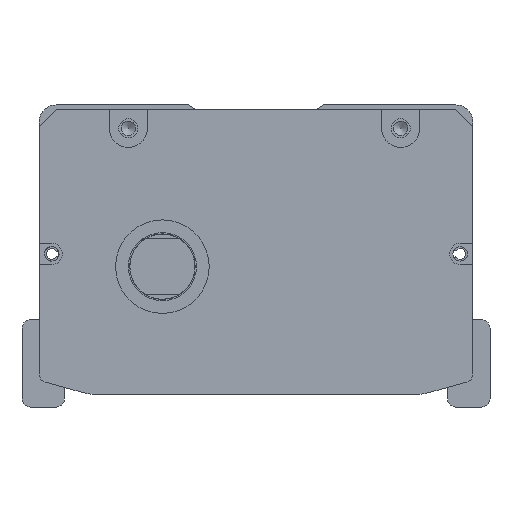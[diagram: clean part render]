
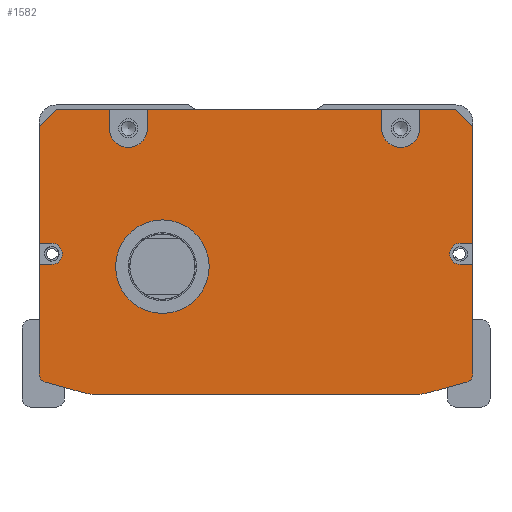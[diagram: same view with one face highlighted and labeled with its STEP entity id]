
A CAD part, front view. The second image highlights one B-rep face of the part: STEP entity #1582.
In plain terms, the highlighted planar face has unit normal (0, -1, 0).
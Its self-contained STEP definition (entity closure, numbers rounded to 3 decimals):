
#958=FACE_BOUND('',#3010,.T.);
#959=FACE_BOUND('',#3011,.T.);
#1582=ADVANCED_FACE('',(#958,#959),#2173,.F.);
#2173=PLANE('',#11715);
#3010=EDGE_LOOP('',(#5327,#5328,#5329,#5330,#5331,#5332,#5333,#5334,#5335,
#5336,#5337,#5338,#5339,#5340,#5341,#5342,#5343,#5344,#5345,#5346,#5347,
#5348,#5349,#5350,#5351,#5352,#5353,#5354));
#3011=EDGE_LOOP('',(#5355));
#3941=CIRCLE('',#11706,4.5);
#3942=CIRCLE('',#11707,4.5);
#3943=CIRCLE('',#11708,2.5);
#3944=CIRCLE('',#11709,2.);
#3945=CIRCLE('',#11710,10.);
#3946=CIRCLE('',#11711,10.);
#3947=CIRCLE('',#11712,2.);
#3948=CIRCLE('',#11713,2.5);
#3949=CIRCLE('',#11714,11.);
#5327=ORIENTED_EDGE('',*,*,#8620,.T.);
#5328=ORIENTED_EDGE('',*,*,#9034,.T.);
#5329=ORIENTED_EDGE('',*,*,#9035,.T.);
#5330=ORIENTED_EDGE('',*,*,#9036,.F.);
#5331=ORIENTED_EDGE('',*,*,#9037,.T.);
#5332=ORIENTED_EDGE('',*,*,#9038,.F.);
#5333=ORIENTED_EDGE('',*,*,#9039,.T.);
#5334=ORIENTED_EDGE('',*,*,#9040,.F.);
#5335=ORIENTED_EDGE('',*,*,#9041,.T.);
#5336=ORIENTED_EDGE('',*,*,#9042,.F.);
#5337=ORIENTED_EDGE('',*,*,#9043,.T.);
#5338=ORIENTED_EDGE('',*,*,#9044,.T.);
#5339=ORIENTED_EDGE('',*,*,#8652,.T.);
#5340=ORIENTED_EDGE('',*,*,#9045,.T.);
#5341=ORIENTED_EDGE('',*,*,#9046,.T.);
#5342=ORIENTED_EDGE('',*,*,#9047,.T.);
#5343=ORIENTED_EDGE('',*,*,#8648,.T.);
#5344=ORIENTED_EDGE('',*,*,#9048,.T.);
#5345=ORIENTED_EDGE('',*,*,#9049,.T.);
#5346=ORIENTED_EDGE('',*,*,#9050,.T.);
#5347=ORIENTED_EDGE('',*,*,#9051,.T.);
#5348=ORIENTED_EDGE('',*,*,#9052,.T.);
#5349=ORIENTED_EDGE('',*,*,#9053,.T.);
#5350=ORIENTED_EDGE('',*,*,#9054,.T.);
#5351=ORIENTED_EDGE('',*,*,#8624,.T.);
#5352=ORIENTED_EDGE('',*,*,#9055,.T.);
#5353=ORIENTED_EDGE('',*,*,#9056,.T.);
#5354=ORIENTED_EDGE('',*,*,#9057,.T.);
#5355=ORIENTED_EDGE('',*,*,#9058,.T.);
#7510=VERTEX_POINT('',#16116);
#7511=VERTEX_POINT('',#16118);
#7514=VERTEX_POINT('',#16124);
#7515=VERTEX_POINT('',#16126);
#7536=VERTEX_POINT('',#16171);
#7537=VERTEX_POINT('',#16173);
#7540=VERTEX_POINT('',#16179);
#7541=VERTEX_POINT('',#16181);
#7802=VERTEX_POINT('',#16970);
#7803=VERTEX_POINT('',#16972);
#7804=VERTEX_POINT('',#16974);
#7805=VERTEX_POINT('',#16976);
#7806=VERTEX_POINT('',#16978);
#7807=VERTEX_POINT('',#16980);
#7808=VERTEX_POINT('',#16982);
#7809=VERTEX_POINT('',#16984);
#7810=VERTEX_POINT('',#16986);
#7811=VERTEX_POINT('',#16988);
#7812=VERTEX_POINT('',#16991);
#7813=VERTEX_POINT('',#16993);
#7814=VERTEX_POINT('',#16996);
#7815=VERTEX_POINT('',#16998);
#7816=VERTEX_POINT('',#17000);
#7817=VERTEX_POINT('',#17002);
#7818=VERTEX_POINT('',#17004);
#7819=VERTEX_POINT('',#17006);
#7820=VERTEX_POINT('',#17009);
#7821=VERTEX_POINT('',#17011);
#7822=VERTEX_POINT('',#17014);
#8620=EDGE_CURVE('',#7511,#7510,#10055,.T.);
#8624=EDGE_CURVE('',#7515,#7514,#10059,.T.);
#8648=EDGE_CURVE('',#7537,#7536,#10083,.T.);
#8652=EDGE_CURVE('',#7541,#7540,#10087,.T.);
#9034=EDGE_CURVE('',#7510,#7802,#10320,.T.);
#9035=EDGE_CURVE('',#7802,#7803,#10321,.T.);
#9036=EDGE_CURVE('',#7804,#7803,#10322,.T.);
#9037=EDGE_CURVE('',#7804,#7805,#3941,.T.);
#9038=EDGE_CURVE('',#7806,#7805,#10323,.T.);
#9039=EDGE_CURVE('',#7806,#7807,#10324,.T.);
#9040=EDGE_CURVE('',#7808,#7807,#10325,.T.);
#9041=EDGE_CURVE('',#7808,#7809,#3942,.T.);
#9042=EDGE_CURVE('',#7810,#7809,#10326,.T.);
#9043=EDGE_CURVE('',#7810,#7811,#10327,.T.);
#9044=EDGE_CURVE('',#7811,#7541,#10328,.T.);
#9045=EDGE_CURVE('',#7540,#7812,#10329,.T.);
#9046=EDGE_CURVE('',#7812,#7813,#3943,.T.);
#9047=EDGE_CURVE('',#7813,#7537,#10330,.T.);
#9048=EDGE_CURVE('',#7536,#7814,#3944,.T.);
#9049=EDGE_CURVE('',#7814,#7815,#10331,.T.);
#9050=EDGE_CURVE('',#7815,#7816,#3945,.T.);
#9051=EDGE_CURVE('',#7816,#7817,#10332,.T.);
#9052=EDGE_CURVE('',#7817,#7818,#3946,.T.);
#9053=EDGE_CURVE('',#7818,#7819,#10333,.T.);
#9054=EDGE_CURVE('',#7819,#7515,#3947,.T.);
#9055=EDGE_CURVE('',#7514,#7820,#10334,.T.);
#9056=EDGE_CURVE('',#7820,#7821,#3948,.T.);
#9057=EDGE_CURVE('',#7821,#7511,#10335,.T.);
#9058=EDGE_CURVE('',#7822,#7822,#3949,.T.);
#10055=LINE('',#16117,#10708);
#10059=LINE('',#16125,#10712);
#10083=LINE('',#16172,#10736);
#10087=LINE('',#16180,#10740);
#10320=LINE('',#16969,#10973);
#10321=LINE('',#16971,#10974);
#10322=LINE('',#16973,#10975);
#10323=LINE('',#16977,#10976);
#10324=LINE('',#16979,#10977);
#10325=LINE('',#16981,#10978);
#10326=LINE('',#16985,#10979);
#10327=LINE('',#16987,#10980);
#10328=LINE('',#16989,#10981);
#10329=LINE('',#16990,#10982);
#10330=LINE('',#16994,#10983);
#10331=LINE('',#16997,#10984);
#10332=LINE('',#17001,#10985);
#10333=LINE('',#17005,#10986);
#10334=LINE('',#17008,#10987);
#10335=LINE('',#17012,#10988);
#10708=VECTOR('',#12870,1.);
#10712=VECTOR('',#12874,1.);
#10736=VECTOR('',#12900,1.);
#10740=VECTOR('',#12904,1.);
#10973=VECTOR('',#13727,1.);
#10974=VECTOR('',#13728,1.);
#10975=VECTOR('',#13729,1.);
#10976=VECTOR('',#13732,1.);
#10977=VECTOR('',#13733,1.);
#10978=VECTOR('',#13734,1.);
#10979=VECTOR('',#13737,1.);
#10980=VECTOR('',#13738,1.);
#10981=VECTOR('',#13739,1.);
#10982=VECTOR('',#13740,1.);
#10983=VECTOR('',#13743,1.);
#10984=VECTOR('',#13746,1.);
#10985=VECTOR('',#13749,1.);
#10986=VECTOR('',#13752,1.);
#10987=VECTOR('',#13755,1.);
#10988=VECTOR('',#13758,1.);
#11706=AXIS2_PLACEMENT_3D('',#16975,#13730,#13731);
#11707=AXIS2_PLACEMENT_3D('',#16983,#13735,#13736);
#11708=AXIS2_PLACEMENT_3D('',#16992,#13741,#13742);
#11709=AXIS2_PLACEMENT_3D('',#16995,#13744,#13745);
#11710=AXIS2_PLACEMENT_3D('',#16999,#13747,#13748);
#11711=AXIS2_PLACEMENT_3D('',#17003,#13750,#13751);
#11712=AXIS2_PLACEMENT_3D('',#17007,#13753,#13754);
#11713=AXIS2_PLACEMENT_3D('',#17010,#13756,#13757);
#11714=AXIS2_PLACEMENT_3D('',#17013,#13759,#13760);
#11715=AXIS2_PLACEMENT_3D('',#17015,#13761,#13762);
#12870=DIRECTION('',(0.,0.,1.));
#12874=DIRECTION('',(0.,0.,1.));
#12900=DIRECTION('',(0.,0.,-1.));
#12904=DIRECTION('',(0.,0.,-1.));
#13727=DIRECTION('',(-0.707,0.,0.707));
#13728=DIRECTION('',(-1.,0.,0.));
#13729=DIRECTION('',(0.,0.,1.));
#13730=DIRECTION('',(0.,1.,0.));
#13731=DIRECTION('',(0.,0.,1.));
#13732=DIRECTION('',(0.,0.,-1.));
#13733=DIRECTION('',(-1.,0.,0.));
#13734=DIRECTION('',(0.,0.,1.));
#13735=DIRECTION('',(0.,1.,0.));
#13736=DIRECTION('',(0.,0.,1.));
#13737=DIRECTION('',(0.,0.,-1.));
#13738=DIRECTION('',(-1.,0.,0.));
#13739=DIRECTION('',(-0.707,0.,-0.707));
#13740=DIRECTION('',(1.,0.,0.));
#13741=DIRECTION('',(0.,1.,0.));
#13742=DIRECTION('',(0.,0.,1.));
#13743=DIRECTION('',(-1.,0.,0.));
#13744=DIRECTION('',(0.,-1.,0.));
#13745=DIRECTION('',(0.,0.,1.));
#13746=DIRECTION('',(0.963,0.,-0.269));
#13747=DIRECTION('',(0.,-1.,0.));
#13748=DIRECTION('',(0.,0.,1.));
#13749=DIRECTION('',(1.,0.,0.));
#13750=DIRECTION('',(0.,-1.,0.));
#13751=DIRECTION('',(0.,0.,-1.));
#13752=DIRECTION('',(0.963,0.,0.269));
#13753=DIRECTION('',(0.,-1.,0.));
#13754=DIRECTION('',(0.,0.,-1.));
#13755=DIRECTION('',(-1.,0.,0.));
#13756=DIRECTION('',(0.,1.,0.));
#13757=DIRECTION('',(0.,0.,1.));
#13758=DIRECTION('',(1.,0.,0.));
#13759=DIRECTION('',(0.,1.,0.));
#13760=DIRECTION('',(0.,0.,1.));
#13761=DIRECTION('',(0.,1.,0.));
#13762=DIRECTION('',(1.,0.,0.));
#16116=CARTESIAN_POINT('',(47.808,-257.5,-5.));
#16117=CARTESIAN_POINT('',(47.808,-257.5,-1.));
#16118=CARTESIAN_POINT('',(47.808,-257.5,-32.5));
#16124=CARTESIAN_POINT('',(47.808,-257.5,-37.5));
#16125=CARTESIAN_POINT('',(47.808,-257.5,-1.));
#16126=CARTESIAN_POINT('',(47.808,-257.5,-63.212));
#16171=CARTESIAN_POINT('',(-54.192,-257.5,-63.212));
#16172=CARTESIAN_POINT('',(-54.192,-257.5,-62.));
#16173=CARTESIAN_POINT('',(-54.192,-257.5,-37.5));
#16179=CARTESIAN_POINT('',(-54.192,-257.5,-32.5));
#16180=CARTESIAN_POINT('',(-54.192,-257.5,-62.));
#16181=CARTESIAN_POINT('',(-54.192,-257.5,-5.));
#16969=CARTESIAN_POINT('',(43.808,-257.5,-1.));
#16970=CARTESIAN_POINT('',(43.808,-257.5,-1.));
#16971=CARTESIAN_POINT('',(-3.192,-257.5,-1.));
#16972=CARTESIAN_POINT('',(35.308,-257.5,-1.));
#16973=CARTESIAN_POINT('',(35.308,-257.5,-1.));
#16974=CARTESIAN_POINT('',(35.308,-257.5,-5.5));
#16975=CARTESIAN_POINT('',(30.808,-257.5,-5.5));
#16976=CARTESIAN_POINT('',(26.308,-257.5,-5.5));
#16977=CARTESIAN_POINT('',(26.308,-257.5,-1.));
#16978=CARTESIAN_POINT('',(26.308,-257.5,-1.));
#16979=CARTESIAN_POINT('',(-54.192,-257.5,-1.));
#16980=CARTESIAN_POINT('',(-28.692,-257.5,-1.));
#16981=CARTESIAN_POINT('',(-28.692,-257.5,-3.5));
#16982=CARTESIAN_POINT('',(-28.692,-257.5,-5.5));
#16983=CARTESIAN_POINT('',(-33.192,-257.5,-5.5));
#16984=CARTESIAN_POINT('',(-37.692,-257.5,-5.5));
#16985=CARTESIAN_POINT('',(-37.692,-257.5,-1.));
#16986=CARTESIAN_POINT('',(-37.692,-257.5,-1.));
#16987=CARTESIAN_POINT('',(-54.192,-257.5,-1.));
#16988=CARTESIAN_POINT('',(-50.192,-257.5,-1.));
#16989=CARTESIAN_POINT('',(-54.192,-257.5,-5.));
#16990=CARTESIAN_POINT('',(-3.192,-257.5,-32.5));
#16991=CARTESIAN_POINT('',(-51.192,-257.5,-32.5));
#16992=CARTESIAN_POINT('',(-51.192,-257.5,-35.));
#16993=CARTESIAN_POINT('',(-51.192,-257.5,-37.5));
#16994=CARTESIAN_POINT('',(-3.192,-257.5,-37.5));
#16995=CARTESIAN_POINT('',(-52.192,-257.5,-63.212));
#16996=CARTESIAN_POINT('',(-52.731,-257.5,-65.138));
#16997=CARTESIAN_POINT('',(-55.807,-257.5,-64.279));
#16998=CARTESIAN_POINT('',(-43.809,-257.5,-67.631));
#16999=CARTESIAN_POINT('',(-41.118,-257.5,-58.));
#17000=CARTESIAN_POINT('',(-41.118,-257.5,-68.));
#17001=CARTESIAN_POINT('',(-54.692,-257.5,-68.));
#17002=CARTESIAN_POINT('',(34.733,-257.5,-68.));
#17003=CARTESIAN_POINT('',(34.733,-257.5,-58.));
#17004=CARTESIAN_POINT('',(37.424,-257.5,-67.631));
#17005=CARTESIAN_POINT('',(49.422,-257.5,-64.279));
#17006=CARTESIAN_POINT('',(46.346,-257.5,-65.138));
#17007=CARTESIAN_POINT('',(45.808,-257.5,-63.212));
#17008=CARTESIAN_POINT('',(-3.192,-257.5,-37.5));
#17009=CARTESIAN_POINT('',(44.808,-257.5,-37.5));
#17010=CARTESIAN_POINT('',(44.808,-257.5,-35.));
#17011=CARTESIAN_POINT('',(44.808,-257.5,-32.5));
#17012=CARTESIAN_POINT('',(-3.192,-257.5,-32.5));
#17013=CARTESIAN_POINT('',(-25.192,-257.5,-38.));
#17014=CARTESIAN_POINT('',(-25.192,-257.5,-27.));
#17015=CARTESIAN_POINT('',(-3.192,-257.5,-1.));
